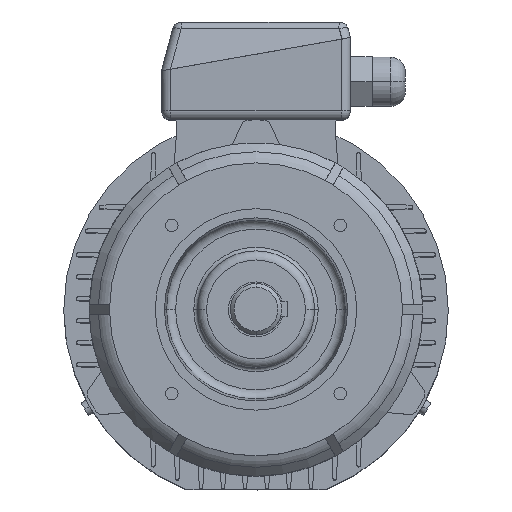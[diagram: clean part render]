
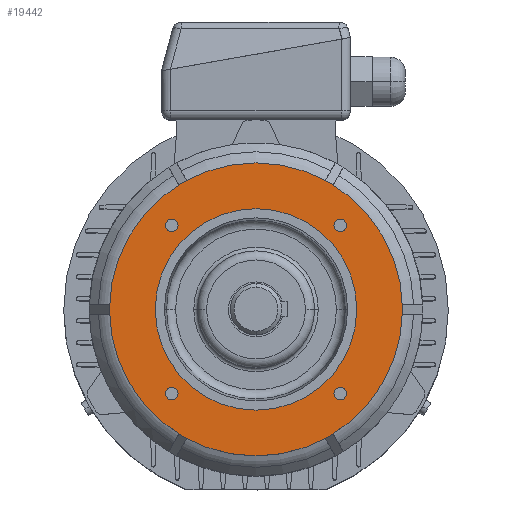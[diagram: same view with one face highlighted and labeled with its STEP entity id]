
A CAD part, top view. The second image highlights one B-rep face of the part: STEP entity #19442.
In plain terms, the highlighted planar face has unit normal (0, 0, 1).
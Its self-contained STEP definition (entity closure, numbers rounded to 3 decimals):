
#94 = ORIENTED_EDGE ( 'NONE', *, *, #25965, .F. ) ;
#16590 = EDGE_CURVE ( 'NONE', #18111, #16680, #13040, .T. ) ;
#224 = CARTESIAN_POINT ( 'NONE',  ( -49.362, -45.962, 45. ) ) ;
#16680 = VERTEX_POINT ( 'NONE', #13110 ) ;
#16854 = CIRCLE ( 'NONE', #16855, 3.4 ) ;
#16855 = AXIS2_PLACEMENT_3D ( 'NONE', #16856, #16857, #16858 ) ;
#16856 = CARTESIAN_POINT ( 'NONE',  ( 45.962, 45.962, 45. ) ) ;
#16857 = DIRECTION ( 'NONE',  ( 0., 0., 1. ) ) ;
#16858 = DIRECTION ( 'NONE',  ( 1., 0., 0. ) ) ;
#16966 = EDGE_CURVE ( 'NONE', #16680, #18111, #13412, .T. ) ;
#17067 = ORIENTED_EDGE ( 'NONE', *, *, #16590, .T. ) ;
#744 = EDGE_LOOP ( 'NONE', ( #94, #25323 ) ) ;
#17154 = CARTESIAN_POINT ( 'NONE',  ( -80., 0., 45. ) ) ;
#1044 = ORIENTED_EDGE ( 'NONE', *, *, #17807, .F. ) ;
#17807 = EDGE_CURVE ( 'NONE', #7121, #13251, #14939, .T. ) ;
#17914 = ORIENTED_EDGE ( 'NONE', *, *, #16966, .T. ) ;
#1704 = EDGE_CURVE ( 'NONE', #13251, #7121, #21026, .T. ) ;
#18092 = CIRCLE ( 'NONE', #18093, 80. ) ;
#18093 = AXIS2_PLACEMENT_3D ( 'NONE', #18094, #18095, #18096 ) ;
#18094 = CARTESIAN_POINT ( 'NONE',  ( 0., 0., 45. ) ) ;
#18095 = DIRECTION ( 'NONE',  ( 0., 0., -1. ) ) ;
#18096 = DIRECTION ( 'NONE',  ( -1., 0., 0. ) ) ;
#18111 = VERTEX_POINT ( 'NONE', #15350 ) ;
#18184 = CARTESIAN_POINT ( 'NONE',  ( -42.562, -45.962, 45. ) ) ;
#2168 = ORIENTED_EDGE ( 'NONE', *, *, #1704, .F. ) ;
#18918 = CIRCLE ( 'NONE', #18919, 3.4 ) ;
#18919 = AXIS2_PLACEMENT_3D ( 'NONE', #18920, #18921, #18922 ) ;
#18920 = CARTESIAN_POINT ( 'NONE',  ( -45.962, -45.962, 45. ) ) ;
#18921 = DIRECTION ( 'NONE',  ( 0., 0., 1. ) ) ;
#18922 = DIRECTION ( 'NONE',  ( 1., 0., 0. ) ) ;
#18936 = EDGE_LOOP ( 'NONE', ( #17914, #17067 ) ) ;
#2593 = CARTESIAN_POINT ( 'NONE',  ( -49.362, 45.962, 45. ) ) ;
#2766 = CIRCLE ( 'NONE', #2767, 3.4 ) ;
#2767 = AXIS2_PLACEMENT_3D ( 'NONE', #2768, #2769, #2770 ) ;
#2768 = CARTESIAN_POINT ( 'NONE',  ( -45.962, -45.962, 45. ) ) ;
#2769 = DIRECTION ( 'NONE',  ( 0., 0., 1. ) ) ;
#2770 = DIRECTION ( 'NONE',  ( 1., 0., 0. ) ) ;
#2796 = EDGE_LOOP ( 'NONE', ( #2168, #1044 ) ) ;
#2923 = CARTESIAN_POINT ( 'NONE',  ( 49.362, -45.962, 45. ) ) ;
#19442 = ADVANCED_FACE ( 'NONE', ( #16188, #16189, #16190, #16191, #16192, #16193 ), #16194, .T. ) ;
#3102 = ORIENTED_EDGE ( 'NONE', *, *, #22460, .F. ) ;
#3304 = CIRCLE ( 'NONE', #3305, 3.4 ) ;
#3305 = AXIS2_PLACEMENT_3D ( 'NONE', #3306, #3307, #3308 ) ;
#3306 = CARTESIAN_POINT ( 'NONE',  ( 45.962, -45.962, 45. ) ) ;
#3307 = DIRECTION ( 'NONE',  ( 0., 0., 1. ) ) ;
#3308 = DIRECTION ( 'NONE',  ( 1., 0., 0. ) ) ;
#3664 = ORIENTED_EDGE ( 'NONE', *, *, #11748, .F. ) ;
#20656 = EDGE_CURVE ( 'NONE', #9559, #10238, #16854, .T. ) ;
#21026 = CIRCLE ( 'NONE', #21027, 3.4 ) ;
#21027 = AXIS2_PLACEMENT_3D ( 'NONE', #21028, #21029, #21030 ) ;
#21028 = CARTESIAN_POINT ( 'NONE',  ( -45.962, 45.962, 45. ) ) ;
#21029 = DIRECTION ( 'NONE',  ( 0., 0., 1. ) ) ;
#21030 = DIRECTION ( 'NONE',  ( 1., 0., 0. ) ) ;
#21170 = VERTEX_POINT ( 'NONE', #17154 ) ;
#4872 = VERTEX_POINT ( 'NONE', #224 ) ;
#5570 = CIRCLE ( 'NONE', #5571, 3.4 ) ;
#5571 = AXIS2_PLACEMENT_3D ( 'NONE', #5572, #5573, #5574 ) ;
#5572 = CARTESIAN_POINT ( 'NONE',  ( 45.962, -45.962, 45. ) ) ;
#5573 = DIRECTION ( 'NONE',  ( 0., 0., 1. ) ) ;
#5574 = DIRECTION ( 'NONE',  ( 1., 0., 0. ) ) ;
#5737 = CARTESIAN_POINT ( 'NONE',  ( 42.562, 45.962, 45. ) ) ;
#22460 = EDGE_CURVE ( 'NONE', #10260, #21170, #18092, .T. ) ;
#22541 = VERTEX_POINT ( 'NONE', #18184 ) ;
#6396 = CARTESIAN_POINT ( 'NONE',  ( 49.362, 45.962, 45. ) ) ;
#6426 = CARTESIAN_POINT ( 'NONE',  ( 80., 0., 45. ) ) ;
#6474 = ORIENTED_EDGE ( 'NONE', *, *, #23484, .F. ) ;
#23484 = EDGE_CURVE ( 'NONE', #4872, #22541, #18918, .T. ) ;
#7121 = VERTEX_POINT ( 'NONE', #2593 ) ;
#23620 = CIRCLE ( 'NONE', #23621, 3.4 ) ;
#23621 = AXIS2_PLACEMENT_3D ( 'NONE', #23622, #23623, #23624 ) ;
#23622 = CARTESIAN_POINT ( 'NONE',  ( 45.962, 45.962, 45. ) ) ;
#23623 = DIRECTION ( 'NONE',  ( 0., 0., 1. ) ) ;
#23624 = DIRECTION ( 'NONE',  ( 1., 0., 0. ) ) ;
#7345 = EDGE_CURVE ( 'NONE', #22541, #4872, #2766, .T. ) ;
#7529 = VERTEX_POINT ( 'NONE', #2923 ) ;
#7772 = EDGE_CURVE ( 'NONE', #14856, #7529, #3304, .T. ) ;
#7821 = ORIENTED_EDGE ( 'NONE', *, *, #7345, .F. ) ;
#7909 = CIRCLE ( 'NONE', #7910, 80. ) ;
#7910 = AXIS2_PLACEMENT_3D ( 'NONE', #7911, #7912, #7913 ) ;
#7911 = CARTESIAN_POINT ( 'NONE',  ( 0., 0., 45. ) ) ;
#7912 = DIRECTION ( 'NONE',  ( 0., 0., -1. ) ) ;
#7913 = DIRECTION ( 'NONE',  ( -1., 0., 0. ) ) ;
#8457 = EDGE_LOOP ( 'NONE', ( #7821, #6474 ) ) ;
#25018 = EDGE_LOOP ( 'NONE', ( #9828, #8761 ) ) ;
#8761 = ORIENTED_EDGE ( 'NONE', *, *, #7772, .F. ) ;
#25323 = ORIENTED_EDGE ( 'NONE', *, *, #20656, .F. ) ;
#9409 = EDGE_CURVE ( 'NONE', #7529, #14856, #5570, .T. ) ;
#9486 = CARTESIAN_POINT ( 'NONE',  ( -42.562, 45.962, 45. ) ) ;
#9559 = VERTEX_POINT ( 'NONE', #5737 ) ;
#25965 = EDGE_CURVE ( 'NONE', #10238, #9559, #23620, .T. ) ;
#9828 = ORIENTED_EDGE ( 'NONE', *, *, #9409, .F. ) ;
#10238 = VERTEX_POINT ( 'NONE', #6396 ) ;
#10260 = VERTEX_POINT ( 'NONE', #6426 ) ;
#11096 = CARTESIAN_POINT ( 'NONE',  ( 42.562, -45.962, 45. ) ) ;
#11748 = EDGE_CURVE ( 'NONE', #21170, #10260, #7909, .T. ) ;
#13040 = CIRCLE ( 'NONE', #13047, 55. ) ;
#13047 = AXIS2_PLACEMENT_3D ( 'NONE', #13048, #13049, #13050 ) ;
#13048 = CARTESIAN_POINT ( 'NONE',  ( 0., 0., 45. ) ) ;
#13049 = DIRECTION ( 'NONE',  ( 0., 0., -1. ) ) ;
#13050 = DIRECTION ( 'NONE',  ( -1., 0., 0. ) ) ;
#13110 = CARTESIAN_POINT ( 'NONE',  ( -55., 0., 45. ) ) ;
#13251 = VERTEX_POINT ( 'NONE', #9486 ) ;
#13412 = CIRCLE ( 'NONE', #13413, 55. ) ;
#13413 = AXIS2_PLACEMENT_3D ( 'NONE', #13414, #13415, #13416 ) ;
#13414 = CARTESIAN_POINT ( 'NONE',  ( 0., 0., 45. ) ) ;
#13415 = DIRECTION ( 'NONE',  ( 0., 0., -1. ) ) ;
#13416 = DIRECTION ( 'NONE',  ( -1., 0., 0. ) ) ;
#14856 = VERTEX_POINT ( 'NONE', #11096 ) ;
#14939 = CIRCLE ( 'NONE', #14940, 3.4 ) ;
#14940 = AXIS2_PLACEMENT_3D ( 'NONE', #14941, #14942, #14943 ) ;
#14941 = CARTESIAN_POINT ( 'NONE',  ( -45.962, 45.962, 45. ) ) ;
#14942 = DIRECTION ( 'NONE',  ( 0., 0., 1. ) ) ;
#14943 = DIRECTION ( 'NONE',  ( 1., 0., 0. ) ) ;
#15350 = CARTESIAN_POINT ( 'NONE',  ( 55., 0., 45. ) ) ;
#16188 = FACE_BOUND ( 'NONE', #18936, .T. ) ;
#16189 = FACE_OUTER_BOUND ( 'NONE', #16275, .T. ) ;
#16190 = FACE_BOUND ( 'NONE', #2796, .T. ) ;
#16191 = FACE_BOUND ( 'NONE', #744, .T. ) ;
#16192 = FACE_BOUND ( 'NONE', #25018, .T. ) ;
#16193 = FACE_BOUND ( 'NONE', #8457, .T. ) ;
#16194 = PLANE ( 'NONE',  #16195 ) ;
#16195 = AXIS2_PLACEMENT_3D ( 'NONE', #16207, #16208, #16209 ) ;
#16207 = CARTESIAN_POINT ( 'NONE',  ( -80., 0., 45. ) ) ;
#16208 = DIRECTION ( 'NONE',  ( 0., 0., 1. ) ) ;
#16209 = DIRECTION ( 'NONE',  ( 1., 0., 0. ) ) ;
#16275 = EDGE_LOOP ( 'NONE', ( #3664, #3102 ) ) ;
